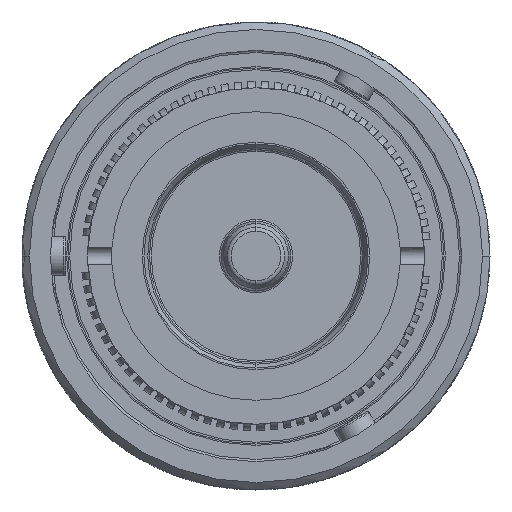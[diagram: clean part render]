
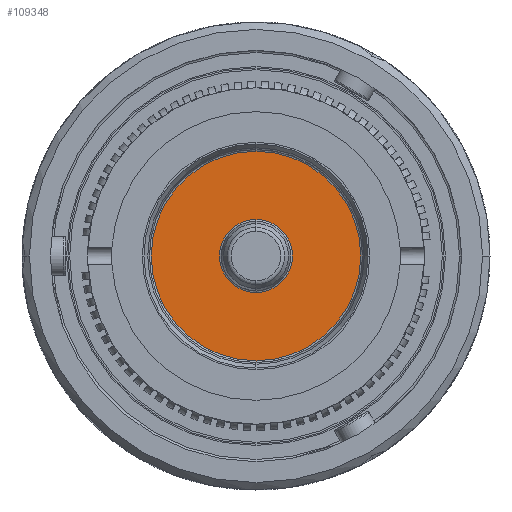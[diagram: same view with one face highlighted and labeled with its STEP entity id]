
A CAD part, left-side view. The second image highlights one B-rep face of the part: STEP entity #109348.
In plain terms, the highlighted planar face has unit normal (-1, 0, 0).
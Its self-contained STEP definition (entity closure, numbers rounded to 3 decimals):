
#31144=CARTESIAN_POINT('',(17.9,0.,0.));
#31145=DIRECTION('',(1.,0.,0.));
#31146=DIRECTION('',(0.,0.,-1.));
#31147=AXIS2_PLACEMENT_3D('',#31144,#31145,#31146);
#31149=CARTESIAN_POINT('',(17.9,0.,0.));
#31150=DIRECTION('',(1.,0.,0.));
#31151=DIRECTION('',(0.,0.,1.));
#31152=AXIS2_PLACEMENT_3D('',#31149,#31150,#31151);
#31154=CARTESIAN_POINT('',(17.9,0.,0.));
#31155=DIRECTION('',(1.,0.,0.));
#31156=DIRECTION('',(0.,0.,1.));
#31157=AXIS2_PLACEMENT_3D('',#31154,#31155,#31156);
#31159=CARTESIAN_POINT('',(17.9,0.,0.));
#31160=DIRECTION('',(1.,0.,0.));
#31161=DIRECTION('',(0.,0.,-1.));
#31162=AXIS2_PLACEMENT_3D('',#31159,#31160,#31161);
#41522=CARTESIAN_POINT('',(17.9,0.,-11.975));
#41523=CARTESIAN_POINT('',(17.9,0.,11.975));
#41524=VERTEX_POINT('',#41522);
#41525=VERTEX_POINT('',#41523);
#41538=CARTESIAN_POINT('',(17.9,0.,4.175));
#41539=CARTESIAN_POINT('',(17.9,0.,-4.175));
#41540=VERTEX_POINT('',#41538);
#41541=VERTEX_POINT('',#41539);
#109332=CARTESIAN_POINT('',(17.9,0.,0.));
#109333=DIRECTION('',(-1.,0.,0.));
#109334=DIRECTION('',(0.,0.,-1.));
#109335=AXIS2_PLACEMENT_3D('',#109332,#109333,#109334);
#109336=PLANE('2294',#109335);
#109337=ORIENTED_EDGE('8733',*,*,#109322,.T.);
#109339=ORIENTED_EDGE('8735',*,*,#109338,.T.);
#109340=EDGE_LOOP('2294',(#109337,#109339));
#109341=FACE_OUTER_BOUND('2294',#109340,.F.);
#109343=ORIENTED_EDGE('8777',*,*,#109342,.F.);
#109345=ORIENTED_EDGE('8779',*,*,#109344,.F.);
#109346=EDGE_LOOP('2294',(#109343,#109345));
#109347=FACE_BOUND('2294',#109346,.F.);
#31148=CIRCLE('8733',#31147,11.975);
#31153=CIRCLE('8735',#31152,11.975);
#31158=CIRCLE('8777',#31157,4.175);
#31163=CIRCLE('8779',#31162,4.175);
#109322=EDGE_CURVE('8733',#41524,#41525,#31148,.T.);
#109338=EDGE_CURVE('8735',#41525,#41524,#31153,.T.);
#109342=EDGE_CURVE('8777',#41540,#41541,#31158,.T.);
#109344=EDGE_CURVE('8779',#41541,#41540,#31163,.T.);
#109348=ADVANCED_FACE('2294',(#109341,#109347),#109336,.T.);
